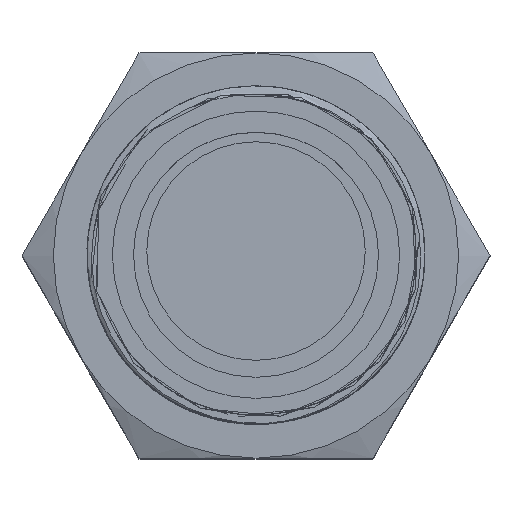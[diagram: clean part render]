
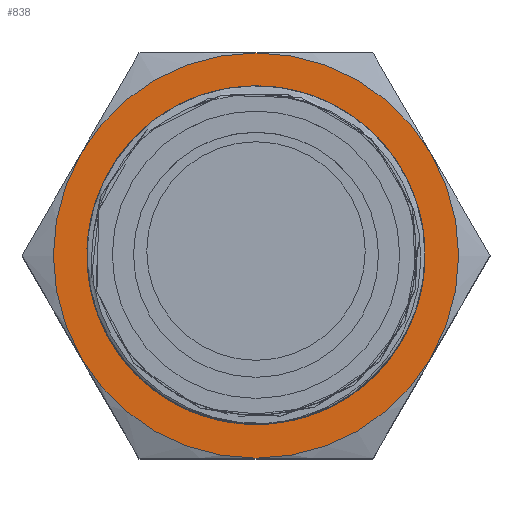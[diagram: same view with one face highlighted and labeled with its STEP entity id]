
A CAD part, top view. The second image highlights one B-rep face of the part: STEP entity #838.
In plain terms, the highlighted planar face has unit normal (0, 0, 1).
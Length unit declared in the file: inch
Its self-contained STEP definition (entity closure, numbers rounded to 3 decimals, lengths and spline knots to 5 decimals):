
#125=CARTESIAN_POINT('',(0.,-0.70472,2.10433));
#126=VERTEX_POINT('',#125);
#142=CARTESIAN_POINT('',(-0.61031,-0.35236,2.10433));
#143=VERTEX_POINT('',#142);
#144=CARTESIAN_POINT('',(0.0,0.0,2.10433));
#145=DIRECTION('',(0.0,0.0,1.0));
#146=DIRECTION('',(1.0,0.0,0.0));
#147=AXIS2_PLACEMENT_3D('',#144,#145,#146);
#148=CIRCLE('',#147,0.70472);
#149=EDGE_CURVE('',#143,#126,#148,.T.);
#172=CARTESIAN_POINT('',(0.61031,-0.35236,2.10433));
#173=VERTEX_POINT('',#172);
#189=CARTESIAN_POINT('',(0.0,0.0,2.10433));
#190=DIRECTION('',(0.0,0.0,1.0));
#191=DIRECTION('',(1.0,0.0,0.0));
#192=AXIS2_PLACEMENT_3D('',#189,#190,#191);
#193=CIRCLE('',#192,0.70472);
#194=EDGE_CURVE('',#126,#173,#193,.T.);
#219=CARTESIAN_POINT('',(-0.61031,0.35236,2.10433));
#220=VERTEX_POINT('',#219);
#247=CARTESIAN_POINT('',(0.0,0.0,2.10433));
#248=DIRECTION('',(0.0,0.0,1.0));
#249=DIRECTION('',(1.0,0.0,0.0));
#250=AXIS2_PLACEMENT_3D('',#247,#248,#249);
#251=CIRCLE('',#250,0.70472);
#252=EDGE_CURVE('',#220,#143,#251,.T.);
#264=CARTESIAN_POINT('',(0.,0.70472,2.10433));
#265=VERTEX_POINT('',#264);
#292=CARTESIAN_POINT('',(0.0,0.0,2.10433));
#293=DIRECTION('',(0.0,0.0,1.0));
#294=DIRECTION('',(1.0,0.0,0.0));
#295=AXIS2_PLACEMENT_3D('',#292,#293,#294);
#296=CIRCLE('',#295,0.70472);
#297=EDGE_CURVE('',#265,#220,#296,.T.);
#307=CARTESIAN_POINT('',(0.61031,0.35236,2.10433));
#308=VERTEX_POINT('',#307);
#324=CARTESIAN_POINT('',(0.0,0.0,2.10433));
#325=DIRECTION('',(0.0,0.0,1.0));
#326=DIRECTION('',(1.0,0.0,0.0));
#327=AXIS2_PLACEMENT_3D('',#324,#325,#326);
#328=CIRCLE('',#327,0.70472);
#329=EDGE_CURVE('',#173,#308,#328,.T.);
#380=CARTESIAN_POINT('',(0.0,0.0,2.10433));
#381=DIRECTION('',(0.0,0.0,1.0));
#382=DIRECTION('',(1.0,0.0,0.0));
#383=AXIS2_PLACEMENT_3D('',#380,#381,#382);
#384=CIRCLE('',#383,0.70472);
#385=EDGE_CURVE('',#308,#265,#384,.T.);
#760=CARTESIAN_POINT('',(0.,0.,2.10433));
#761=DIRECTION('',(0.0,0.0,1.0));
#762=DIRECTION('',(1.0,0.0,0.0));
#763=AXIS2_PLACEMENT_3D('',#760,#761,#762);
#764=PLANE('',#763);
#765=ORIENTED_EDGE('',*,*,#149,.T.);
#766=ORIENTED_EDGE('',*,*,#194,.T.);
#767=ORIENTED_EDGE('',*,*,#329,.T.);
#768=ORIENTED_EDGE('',*,*,#385,.T.);
#769=ORIENTED_EDGE('',*,*,#297,.T.);
#770=ORIENTED_EDGE('',*,*,#252,.T.);
#771=EDGE_LOOP('',(#765,#766,#767,#768,#769,#770));
#772=FACE_OUTER_BOUND('',#771,.T.);
#773=CARTESIAN_POINT('',(-0.53871,-0.14527,2.10433));
#774=VERTEX_POINT('',#773);
#775=CARTESIAN_POINT('',(-0.5159,-0.21252,2.10433));
#776=VERTEX_POINT('',#775);
#777=CARTESIAN_POINT('',(0.0,0.0,2.10433));
#778=DIRECTION('',(0.0,0.0,1.0));
#779=DIRECTION('',(-1.0,0.0,0.0));
#780=AXIS2_PLACEMENT_3D('',#777,#778,#779);
#781=CIRCLE('',#780,0.55795);
#782=EDGE_CURVE('',#774,#776,#781,.T.);
#783=ORIENTED_EDGE('',*,*,#782,.F.);
#784=CARTESIAN_POINT('',(0.55645,0.18878,2.10433));
#785=VERTEX_POINT('',#784);
#786=CARTESIAN_POINT('',(0.55645,0.18878,2.10433));
#787=CARTESIAN_POINT('',(0.52362,0.28058,2.10433));
#788=CARTESIAN_POINT('',(0.46767,0.3637,2.10433));
#789=CARTESIAN_POINT('',(0.39531,0.42831,2.10433));
#790=CARTESIAN_POINT('',(0.32347,0.49245,2.10433));
#791=CARTESIAN_POINT('',(0.23509,0.53852,2.10433));
#792=CARTESIAN_POINT('',(0.14131,0.56051,2.10433));
#793=CARTESIAN_POINT('',(0.04831,0.58231,2.10433));
#794=CARTESIAN_POINT('',(-0.05024,0.58061,2.10433));
#795=CARTESIAN_POINT('',(-0.14261,0.55522,2.10433));
#796=CARTESIAN_POINT('',(-0.23418,0.53005,2.10433));
#797=CARTESIAN_POINT('',(-0.31914,0.48175,2.10433));
#798=CARTESIAN_POINT('',(-0.38739,0.41601,2.10433));
#799=CARTESIAN_POINT('',(-0.45512,0.35076,2.10433));
#800=CARTESIAN_POINT('',(-0.50633,0.26824,2.10433));
#801=CARTESIAN_POINT('',(-0.53456,0.17871,2.10433));
#802=CARTESIAN_POINT('',(-0.56257,0.08992,2.10433));
#803=CARTESIAN_POINT('',(-0.56812,-0.00623,2.10433));
#804=CARTESIAN_POINT('',(-0.55024,-0.09771,2.10433));
#805=CARTESIAN_POINT('',(-0.54711,-0.1137,2.10433));
#806=CARTESIAN_POINT('',(-0.54327,-0.12956,2.10433));
#807=CARTESIAN_POINT('',(-0.53873,-0.14526,2.10433));
#808=B_SPLINE_CURVE_WITH_KNOTS('',3,(#786,#787,#788,#789,#790,#791,#792,#793,#794,#795,#796,#797,#798,#799,#800,#801,#802,#803,#804,#805,#806,#807),.UNSPECIFIED.,.F.,.U.,(4,3,3,3,3,3,3,4),(-4.48991,-3.74783,-3.01107,-2.28053,-1.5562,-0.83739,-0.12454,0.0),.UNSPECIFIED.);
#809=EDGE_CURVE('',#785,#774,#808,.T.);
#810=ORIENTED_EDGE('',*,*,#809,.F.);
#811=CARTESIAN_POINT('',(-0.5159,-0.21252,2.10433));
#812=CARTESIAN_POINT('',(-0.48184,-0.29942,2.10433));
#813=CARTESIAN_POINT('',(-0.42575,-0.37726,2.10433));
#814=CARTESIAN_POINT('',(-0.35462,-0.43703,2.10433));
#815=CARTESIAN_POINT('',(-0.28284,-0.49735,2.10433));
#816=CARTESIAN_POINT('',(-0.19538,-0.53943,2.10433));
#817=CARTESIAN_POINT('',(-0.10345,-0.5581,2.10433));
#818=CARTESIAN_POINT('',(-0.01078,-0.5769,2.10433));
#819=CARTESIAN_POINT('',(0.08671,-0.5721,2.10433));
#820=CARTESIAN_POINT('',(0.17739,-0.54422,2.10433));
#821=CARTESIAN_POINT('',(0.26878,-0.51612,2.10433));
#822=CARTESIAN_POINT('',(0.35273,-0.46478,2.10433));
#823=CARTESIAN_POINT('',(0.41944,-0.39653,2.10433));
#824=CARTESIAN_POINT('',(0.48674,-0.32768,2.10433));
#825=CARTESIAN_POINT('',(0.53645,-0.24155,2.10433));
#826=CARTESIAN_POINT('',(0.5626,-0.14903,2.10433));
#827=CARTESIAN_POINT('',(0.58896,-0.05576,2.10433));
#828=CARTESIAN_POINT('',(0.59154,0.04449,2.10433));
#829=CARTESIAN_POINT('',(0.57006,0.13916,2.10433));
#830=CARTESIAN_POINT('',(0.56628,0.15586,2.10433));
#831=CARTESIAN_POINT('',(0.56174,0.17242,2.10433));
#832=CARTESIAN_POINT('',(0.55647,0.18877,2.10433));
#833=B_SPLINE_CURVE_WITH_KNOTS('',3,(#811,#812,#813,#814,#815,#816,#817,#818,#819,#820,#821,#822,#823,#824,#825,#826,#827,#828,#829,#830,#831,#832),.UNSPECIFIED.,.F.,.U.,(4,3,3,3,3,3,3,4),(-4.49488,-3.78286,-3.06424,-2.33992,-1.60986,-0.87341,-0.13097,0.0),.UNSPECIFIED.);
#834=EDGE_CURVE('',#776,#785,#833,.T.);
#835=ORIENTED_EDGE('',*,*,#834,.F.);
#836=EDGE_LOOP('',(#783,#810,#835));
#837=FACE_BOUND('',#836,.T.);
#838=ADVANCED_FACE('',(#772,#837),#764,.T.);
